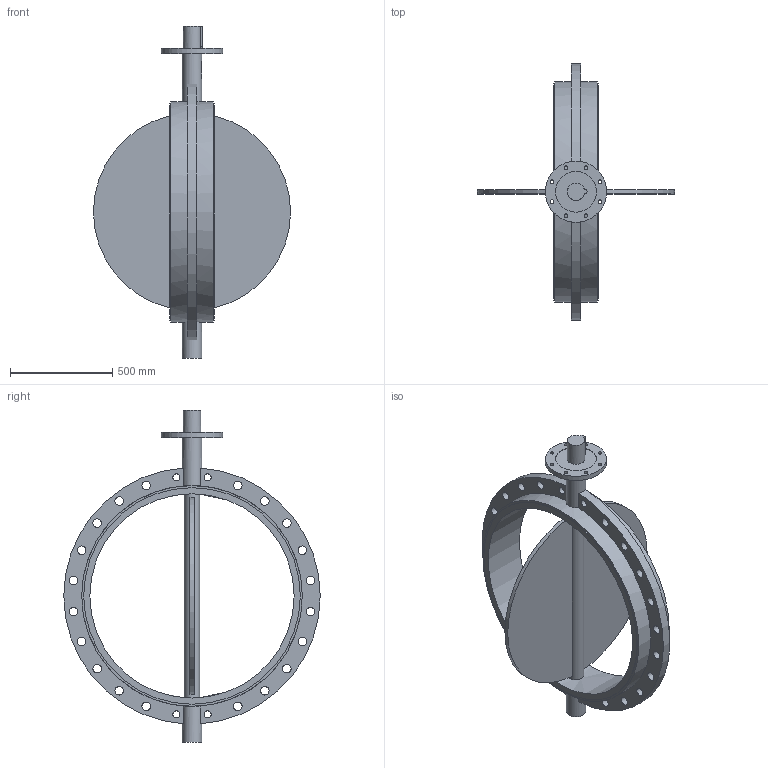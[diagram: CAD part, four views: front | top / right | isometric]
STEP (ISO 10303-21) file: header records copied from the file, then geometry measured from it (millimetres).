
FILE_DESCRIPTION(('STEP AP203'), '1');
FILE_NAME('青蜮铕 017W.YS_DN1000_PN16', '', ('UNSPECIFIED'), ('UNSPECIFIED'), 'ASCON STEP Converter 1.6', 'ASCON Math Kernel', '');
FILE_SCHEMA(('CONFIG_CONTROL_DESIGN'));
Length unit declared in the file: millimetre
Bounding box: 965 x 1255 x 1625 mm (x, y, z)
Volume: 63154702 mm3; surface area: 4254033.7 mm2
Topology: 1 solids, 1 shells, 92 faces, 234 edges, 155 vertices
Faces by surface type: cylinder 56, plane 36
Full cylindrical faces by diameter (mm): 18 x8, 34.67 x4, 42 x20, 75 x1, 85 x1, 95 x2, 200 x1, 300 x1, 1000 x1, 1060 x2, 1080 x2
Entity records: 4593 total; most frequent: CARTESIAN_POINT 1542, DIRECTION 472, ORIENTED_EDGE 384, EDGE_LOOP 213, AXIS2_PLACEMENT_3D 206, EDGE_CURVE 192, VERTEX_POINT 155, FACE_BOUND 133
